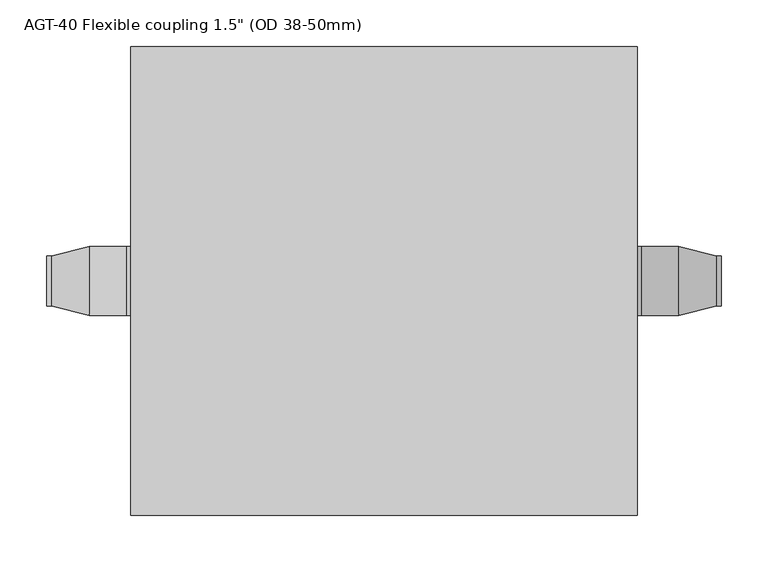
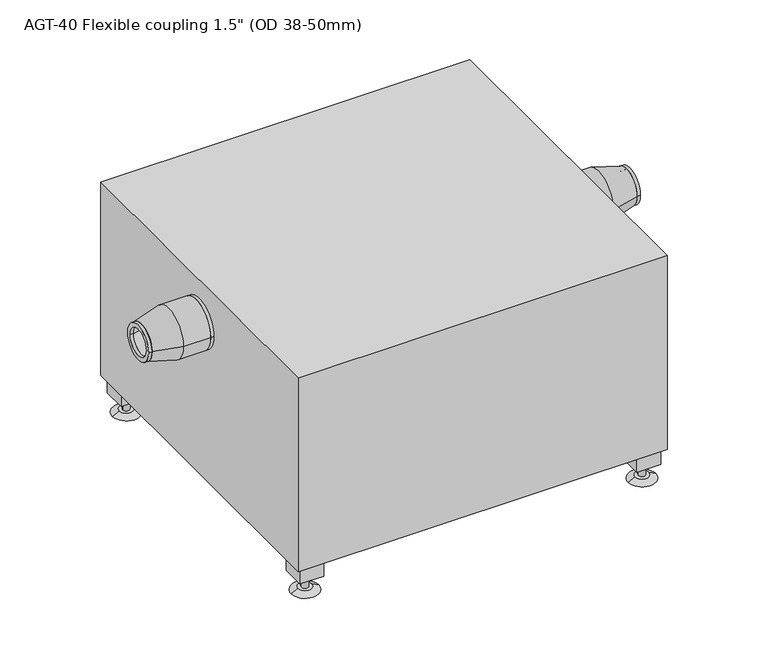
"""IFC4 building model written with IfcOpenShell, lengths in millimetres: unitary equipment geometry."""

from ifc_helpers import new_model, si_unit, point, frame, frame_2d, origin, place, context, project, spatial, polyline, circle_curve, trimmed, segment, composite_curve, outline, extrude, faceted_brep, source, transform, mapped, element, save
from ifc_brep_helpers import plane_surface, cylinder_surface, revolved_surface, advanced_brep


def unitary_equipment_d624d7d0(model_context):
    return source(origin(), model_context, "Body", "SolidModel", [
        advanced_brep(
        [(354.694081, 26.65, 276.5), (354.694081, -26.65, 276.5), (354.694081, -20.0, 276.5), (354.694081, 20.0, 276.5), (314.694081, 36.8, 276.5), (314.694081, -36.8, 276.5), (275.0, 36.8, 276.5), (275.0, -36.8, 276.5), (275.0, 30.15, 276.5), (275.0, -30.15, 276.5), (314.694081, 30.15, 276.5), (314.694081, -30.15, 276.5)],
        [
            (0, 1, circle_curve(frame((354.694081, 0.0, 276.5), z_axis=(1.0, 0.0, 0.0), x_axis=(0.0, 1.0, 0.0)), 26.65)),
            (1, 0, circle_curve(frame((354.694081, 0.0, 276.5), z_axis=(1.0, 0.0, 0.0), x_axis=(0.0, -1.0, 0.0)), 26.65)),
            (2, 3, circle_curve(frame((354.694081, 0.0, 276.5), z_axis=(-1.0, 0.0, 0.0), x_axis=(0.0, 1.0, 0.0)), 20.0)),
            (3, 2, circle_curve(frame((354.694081, 0.0, 276.5), z_axis=(-1.0, 0.0, 0.0), x_axis=(0.0, -1.0, 0.0)), 20.0)),
            (0, 4),
            (4, 5, circle_curve(frame((314.694081, 0.0, 276.5), z_axis=(1.0, 0.0, 0.0), x_axis=(0.0, 1.0, 0.0)), 36.8)),
            (5, 1),
            (5, 4, circle_curve(frame((314.694081, 0.0, 276.5), z_axis=(1.0, 0.0, 0.0), x_axis=(0.0, -1.0, 0.0)), 36.8)),
            (6, 7, circle_curve(frame((275.0, 0.0, 276.5), z_axis=(-1.0, 0.0, 0.0), x_axis=(0.0, -1.0, 0.0)), 36.8)),
            (7, 6, circle_curve(frame((275.0, 0.0, 276.5), z_axis=(-1.0, 0.0, 0.0), x_axis=(0.0, -1.0, 0.0)), 36.8)),
            (8, 9, circle_curve(frame((275.0, 0.0, 276.5), z_axis=(1.0, 0.0, 0.0), x_axis=(0.0, -1.0, 0.0)), 30.15)),
            (9, 8, circle_curve(frame((275.0, 0.0, 276.5), z_axis=(1.0, 0.0, 0.0), x_axis=(0.0, -1.0, 0.0)), 30.15)),
            (7, 5),
            (4, 6),
            (8, 10),
            (10, 11, circle_curve(frame((314.694081, 0.0, 276.5), z_axis=(1.0, 0.0, 0.0), x_axis=(0.0, -1.0, 0.0)), 30.15)),
            (11, 9),
            (11, 10, circle_curve(frame((314.694081, 0.0, 276.5), z_axis=(1.0, 0.0, 0.0), x_axis=(0.0, -1.0, 0.0)), 30.15)),
            (10, 3),
            (2, 11),
        ],
        [
            plane_surface(frame((354.694081, 0.0, 276.5), z_axis=(1.0, 0.0, 0.0), x_axis=(0.0, 0.0, -1.0))),
            revolved_surface(polyline([(354.694081, 26.64999999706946, 276.5), (314.694081, 36.8, 276.5)]), (459.7187115, 0.0, 276.5), (-1.0, 0.0, 0.0)),
            revolved_surface(polyline([(354.694081, -26.64999999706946, 276.5), (314.694081, -36.8, 276.5)]), (459.7187115, 0.0, 276.5), (-1.0, 0.0, 0.0)),
            plane_surface(frame((275.0, -36.8, 276.5), z_axis=(-1.0, 0.0, 0.0), x_axis=(0.0, 0.0, 1.0))),
            cylinder_surface(frame((314.694081, 0.0, 276.5), z_axis=(-1.0, 0.0, 0.0), x_axis=(0.0, -1.0, 0.0)), 36.8),
            revolved_surface(polyline([(314.694081, -30.15, 276.5), (275.0, -30.15, 276.5)]), (314.694081, 0.0, 276.5), (1.0, 0.0, 0.0)),
            revolved_surface(polyline([(314.694081, 30.15, 276.5), (354.694081, 20.000000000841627, 276.5)]), (433.511815, 0.0, 276.5), (-1.0, 0.0, 0.0)),
        ],
        [
            (0, [[1, 2], [3, 4]]),
            (1, [[-1, 5, 6, 7]]),
            (2, [[-2, -7, 8, -5]]),
            (3, [[9, 10], [11, 12]]),
            (4, [[-10, 13, -6, 14]]),
            (4, [[-9, -14, -8, -13]]),
            (5, [[-11, 15, 16, 17]]),
            (5, [[-12, -17, 18, -15]]),
            (6, [[19, -3, 20, -16]]),
            (6, [[-19, -18, -20, -4]]),
        ],
    ),
        extrude(outline(composite_curve([segment(trimmed(circle_curve(frame_2d((0.0, 276.5)), 36.8), [point((36.8, 276.5))], [point((-36.8, 276.5))], False, "CARTESIAN"), True, "CONTINUOUS"), segment(trimmed(circle_curve(frame_2d((0.0, 276.5)), 36.8), [point((-36.8, 276.5))], [point((36.8, 276.5))], False, "CARTESIAN"), True, "CONTINUOUS")], self_intersect=False), holes=[composite_curve([segment(trimmed(circle_curve(frame_2d((0.0, 276.5)), 30.15), [point((30.15, 276.5))], [point((-30.15, 276.5))], True, "CARTESIAN"), True, "CONTINUOUS"), segment(trimmed(circle_curve(frame_2d((0.0, 276.5)), 30.15), [point((-30.15, 276.5))], [point((30.15, 276.5))], True, "CARTESIAN"), True, "CONTINUOUS")], self_intersect=False)]), frame((270.0, 0.0, 0.0), z_axis=(1.0, 0.0, 0.0), x_axis=(0.0, 1.0, 0.0)), (0.0, 0.0, 1.0), 5.0),
        extrude(outline(composite_curve([segment(trimmed(circle_curve(frame_2d((0.0, 276.5)), 26.65), [point((26.65, 276.5))], [point((-26.65, 276.5))], False, "CARTESIAN"), True, "CONTINUOUS"), segment(trimmed(circle_curve(frame_2d((0.0, 276.5)), 26.65), [point((-26.65, 276.5))], [point((26.65, 276.5))], False, "CARTESIAN"), True, "CONTINUOUS")], self_intersect=False), holes=[composite_curve([segment(trimmed(circle_curve(frame_2d((0.0, 276.5)), 20.0), [point((20.0, 276.5))], [point((-20.0, 276.5))], True, "CARTESIAN"), True, "CONTINUOUS"), segment(trimmed(circle_curve(frame_2d((0.0, 276.5)), 20.0), [point((-20.0, 276.5))], [point((20.0, 276.5))], True, "CARTESIAN"), True, "CONTINUOUS")], self_intersect=False)]), frame((354.694081, 0.0, 0.0), z_axis=(1.0, 0.0, 0.0), x_axis=(0.0, 1.0, 0.0)), (0.0, 0.0, 1.0), 5.0),
        advanced_brep(
        [(-354.694081, -26.65, 284.5), (-354.694081, 26.65, 284.5), (-354.694081, 20.0, 284.5), (-354.694081, -20.0, 284.5), (-314.694081, -36.8, 284.5), (-314.694081, 36.8, 284.5), (-275.0, -36.8, 284.5), (-275.0, 36.8, 284.5), (-275.0, -30.15, 284.5), (-275.0, 30.15, 284.5), (-314.694081, -30.15, 284.5), (-314.694081, 30.15, 284.5)],
        [
            (0, 1, circle_curve(frame((-354.694081, 0.0, 284.5), z_axis=(-1.0, 0.0, 0.0), x_axis=(0.0, -1.0, 0.0)), 26.65)),
            (1, 0, circle_curve(frame((-354.694081, 0.0, 284.5), z_axis=(-1.0, 0.0, 0.0), x_axis=(0.0, 1.0, 0.0)), 26.65)),
            (2, 3, circle_curve(frame((-354.694081, 0.0, 284.5), z_axis=(1.0, 0.0, 0.0), x_axis=(0.0, -1.0, 0.0)), 20.0)),
            (3, 2, circle_curve(frame((-354.694081, 0.0, 284.5), z_axis=(1.0, 0.0, 0.0), x_axis=(0.0, 1.0, 0.0)), 20.0)),
            (0, 4),
            (4, 5, circle_curve(frame((-314.694081, 0.0, 284.5), z_axis=(-1.0, 0.0, 0.0), x_axis=(0.0, -1.0, 0.0)), 36.8)),
            (5, 1),
            (5, 4, circle_curve(frame((-314.694081, 0.0, 284.5), z_axis=(-1.0, 0.0, 0.0), x_axis=(0.0, 1.0, 0.0)), 36.8)),
            (6, 7, circle_curve(frame((-275.0, 0.0, 284.5), z_axis=(1.0, 0.0, 0.0), x_axis=(0.0, 1.0, 0.0)), 36.8)),
            (7, 6, circle_curve(frame((-275.0, 0.0, 284.5), z_axis=(1.0, 0.0, 0.0), x_axis=(0.0, 1.0, 0.0)), 36.8)),
            (8, 9, circle_curve(frame((-275.0, 0.0, 284.5), z_axis=(-1.0, 0.0, 0.0), x_axis=(0.0, 1.0, 0.0)), 30.15)),
            (9, 8, circle_curve(frame((-275.0, 0.0, 284.5), z_axis=(-1.0, 0.0, 0.0), x_axis=(0.0, 1.0, 0.0)), 30.15)),
            (7, 5),
            (4, 6),
            (8, 10),
            (10, 11, circle_curve(frame((-314.694081, 0.0, 284.5), z_axis=(-1.0, 0.0, 0.0), x_axis=(0.0, 1.0, 0.0)), 30.15)),
            (11, 9),
            (11, 10, circle_curve(frame((-314.694081, 0.0, 284.5), z_axis=(-1.0, 0.0, 0.0), x_axis=(0.0, 1.0, 0.0)), 30.15)),
            (10, 3),
            (2, 11),
        ],
        [
            plane_surface(frame((-354.694081, 0.0, 284.5), z_axis=(-1.0, 0.0, 0.0), x_axis=(0.0, 0.0, -1.0))),
            revolved_surface(polyline([(-354.694081, -26.64999999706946, 284.5), (-314.694081, -36.8, 284.5)]), (-459.7187115, 0.0, 284.5), (1.0, 0.0, 0.0)),
            revolved_surface(polyline([(-354.694081, 26.64999999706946, 284.5), (-314.694081, 36.8, 284.5)]), (-459.7187115, 0.0, 284.5), (1.0, 0.0, 0.0)),
            plane_surface(frame((-275.0, 36.8, 284.5), z_axis=(1.0, 0.0, 0.0), x_axis=(0.0, 0.0, 1.0))),
            cylinder_surface(frame((-314.694081, 0.0, 284.5), z_axis=(1.0, 0.0, 0.0), x_axis=(0.0, 1.0, 0.0)), 36.8),
            revolved_surface(polyline([(-314.694081, 30.15, 284.5), (-275.0, 30.15, 284.5)]), (-314.694081, 0.0, 284.5), (-1.0, 0.0, 0.0)),
            revolved_surface(polyline([(-314.694081, -30.15, 284.5), (-354.694081, -20.000000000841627, 284.5)]), (-433.511815, 0.0, 284.5), (1.0, 0.0, 0.0)),
        ],
        [
            (0, [[1, 2], [3, 4]]),
            (1, [[-1, 5, 6, 7]]),
            (2, [[-2, -7, 8, -5]]),
            (3, [[9, 10], [11, 12]]),
            (4, [[-10, 13, -6, 14]]),
            (4, [[-9, -14, -8, -13]]),
            (5, [[-11, 15, 16, 17]]),
            (5, [[-12, -17, 18, -15]]),
            (6, [[19, -3, 20, -16]]),
            (6, [[-19, -18, -20, -4]]),
        ],
    ),
        extrude(outline(composite_curve([segment(trimmed(circle_curve(frame_2d((0.0, 284.5)), 36.8), [point((-36.8, 284.5))], [point((36.8, 284.5))], False, "CARTESIAN"), True, "CONTINUOUS"), segment(trimmed(circle_curve(frame_2d((0.0, 284.5)), 36.8), [point((36.8, 284.5))], [point((-36.8, 284.5))], False, "CARTESIAN"), True, "CONTINUOUS")], self_intersect=False), holes=[composite_curve([segment(trimmed(circle_curve(frame_2d((0.0, 284.5)), 30.15), [point((-30.15, 284.5))], [point((30.15, 284.5))], True, "CARTESIAN"), True, "CONTINUOUS"), segment(trimmed(circle_curve(frame_2d((0.0, 284.5)), 30.15), [point((30.15, 284.5))], [point((-30.15, 284.5))], True, "CARTESIAN"), True, "CONTINUOUS")], self_intersect=False)]), frame((-275.0, 0.0, 0.0), z_axis=(1.0, 0.0, 0.0), x_axis=(0.0, 1.0, 0.0)), (0.0, 0.0, 1.0), 5.0),
        extrude(outline(composite_curve([segment(trimmed(circle_curve(frame_2d((0.0, 284.5)), 26.65), [point((-26.65, 284.5))], [point((26.65, 284.5))], False, "CARTESIAN"), True, "CONTINUOUS"), segment(trimmed(circle_curve(frame_2d((0.0, 284.5)), 26.65), [point((26.65, 284.5))], [point((-26.65, 284.5))], False, "CARTESIAN"), True, "CONTINUOUS")], self_intersect=False), holes=[composite_curve([segment(trimmed(circle_curve(frame_2d((0.0, 284.5)), 20.0), [point((-20.0, 284.5))], [point((20.0, 284.5))], True, "CARTESIAN"), True, "CONTINUOUS"), segment(trimmed(circle_curve(frame_2d((0.0, 284.5)), 20.0), [point((20.0, 284.5))], [point((-20.0, 284.5))], True, "CARTESIAN"), True, "CONTINUOUS")], self_intersect=False)]), frame((-359.694081, 0.0, 0.0), z_axis=(1.0, 0.0, 0.0), x_axis=(0.0, 1.0, 0.0)), (0.0, 0.0, 1.0), 5.0),
        extrude(outline(composite_curve([segment(trimmed(circle_curve(frame_2d((0.0, 52.5)), 20.0), [point((-20.0, 52.5))], [point((20.0, 52.5))], False, "CARTESIAN"), True, "CONTINUOUS"), segment(trimmed(circle_curve(frame_2d((0.0, 52.5)), 20.0), [point((20.0, 52.5))], [point((-20.0, 52.5))], False, "CARTESIAN"), True, "CONTINUOUS")], self_intersect=False)), frame((270.0, 0.0, 0.0), z_axis=(1.0, 0.0, 0.0), x_axis=(0.0, 1.0, 0.0)), (0.0, 0.0, 1.0), 80.0),
        extrude(outline(composite_curve([segment(trimmed(circle_curve(frame_2d((0.0, 284.5)), 30.15), [point((-30.15, 284.5))], [point((30.15, 284.5))], False, "CARTESIAN"), True, "CONTINUOUS"), segment(trimmed(circle_curve(frame_2d((0.0, 284.5)), 30.15), [point((30.15, 284.5))], [point((-30.15, 284.5))], False, "CARTESIAN"), True, "CONTINUOUS")], self_intersect=False)), frame((-310.0, 0.0, 0.0), z_axis=(1.0, 0.0, 0.0), x_axis=(0.0, 1.0, 0.0)), (0.0, 0.0, 1.0), 40.0),
        extrude(outline(composite_curve([segment(trimmed(circle_curve(frame_2d((0.0, 276.5)), 30.15), [point((-30.15, 276.5))], [point((30.15, 276.5))], False, "CARTESIAN"), True, "CONTINUOUS"), segment(trimmed(circle_curve(frame_2d((0.0, 276.5)), 30.15), [point((30.15, 276.5))], [point((-30.15, 276.5))], False, "CARTESIAN"), True, "CONTINUOUS")], self_intersect=False)), frame((270.0, 0.0, 0.0), z_axis=(1.0, 0.0, 0.0), x_axis=(0.0, 1.0, 0.0)), (0.0, 0.0, 1.0), 40.0),
        advanced_brep(
        [(256.5, 226.5, 5.0), (236.5, 226.5, 5.0), (266.5, 226.5, 0.0), (226.5, 226.5, 0.0)],
        [
            (0, 1, circle_curve(frame((246.5, 226.5, 5.0), z_axis=(0.0, 0.0, 1.0), x_axis=(1.0, 0.0, 0.0)), 10.0)),
            (1, 0, circle_curve(frame((246.5, 226.5, 5.0), z_axis=(0.0, 0.0, 1.0), x_axis=(-1.0, 0.0, 0.0)), 10.0)),
            (2, 3, circle_curve(frame((246.5, 226.5, 0.0), z_axis=(0.0, 0.0, -1.0), x_axis=(-1.0, 0.0, 0.0)), 20.0)),
            (3, 2, circle_curve(frame((246.5, 226.5, 0.0), z_axis=(0.0, 0.0, -1.0), x_axis=(1.0, 0.0, 0.0)), 20.0)),
            (3, 1),
            (0, 2),
        ],
        [
            plane_surface(frame((246.5, 226.5, 5.0), z_axis=(0.0, 0.0, 1.0), x_axis=(0.0, 1.0, 0.0))),
            plane_surface(frame((246.5, 226.5, 0.0), z_axis=(0.0, 0.0, -1.0), x_axis=(0.0, 1.0, 0.0))),
            revolved_surface(polyline([(256.5, 226.5, 5.0), (266.5, 226.5, 0.0)]), (246.5, 226.5, 10.0), (0.0, 0.0, -1.0)),
            revolved_surface(polyline([(236.5, 226.5, 5.0), (226.5, 226.5, 0.0)]), (246.5, 226.5, 10.0), (0.0, 0.0, -1.0)),
        ],
        [
            (0, [[1, 2]]),
            (1, [[3, 4]]),
            (2, [[-4, 5, -1, 6]]),
            (3, [[-3, -6, -2, -5]]),
        ],
    ),
        extrude(outline(composite_curve([segment(trimmed(circle_curve(frame_2d((246.5, 226.5)), 5.0), [point((251.5, 226.5))], [point((241.5, 226.5))], False, "CARTESIAN"), True, "CONTINUOUS"), segment(trimmed(circle_curve(frame_2d((246.5, 226.5)), 5.0), [point((241.5, 226.5))], [point((251.5, 226.5))], False, "CARTESIAN"), True, "CONTINUOUS")], self_intersect=False)), frame((0.0, 0.0, 5.0), z_axis=(0.0, 0.0, 1.0), x_axis=(1.0, 0.0, 0.0)), (0.0, 0.0, 1.0), 20.0),
        extrude(outline(composite_curve([segment(trimmed(circle_curve(frame_2d((-246.5, 226.5)), 5.0), [point((-251.5, 226.5))], [point((-241.5, 226.5))], False, "CARTESIAN"), True, "CONTINUOUS"), segment(trimmed(circle_curve(frame_2d((-246.5, 226.5)), 5.0), [point((-241.5, 226.5))], [point((-251.5, 226.5))], False, "CARTESIAN"), True, "CONTINUOUS")], self_intersect=False)), frame((0.0, 0.0, 5.0), z_axis=(0.0, 0.0, 1.0), x_axis=(1.0, 0.0, 0.0)), (0.0, 0.0, 1.0), 20.0),
        advanced_brep(
        [(-256.5, 226.5, 5.0), (-236.5, 226.5, 5.0), (-266.5, 226.5, 0.0), (-226.5, 226.5, 0.0)],
        [
            (0, 1, circle_curve(frame((-246.5, 226.5, 5.0), z_axis=(0.0, 0.0, 1.0), x_axis=(-1.0, 0.0, 0.0)), 10.0)),
            (1, 0, circle_curve(frame((-246.5, 226.5, 5.0), z_axis=(0.0, 0.0, 1.0), x_axis=(1.0, 0.0, 0.0)), 10.0)),
            (2, 3, circle_curve(frame((-246.5, 226.5, 0.0), z_axis=(0.0, 0.0, -1.0), x_axis=(1.0, 0.0, 0.0)), 20.0)),
            (3, 2, circle_curve(frame((-246.5, 226.5, 0.0), z_axis=(0.0, 0.0, -1.0), x_axis=(-1.0, 0.0, 0.0)), 20.0)),
            (2, 0),
            (1, 3),
        ],
        [
            plane_surface(frame((-246.5, 226.5, 5.0), z_axis=(0.0, 0.0, 1.0), x_axis=(0.0, -1.0, 0.0))),
            plane_surface(frame((-246.5, 226.5, 0.0), z_axis=(0.0, 0.0, -1.0), x_axis=(0.0, -1.0, 0.0))),
            revolved_surface(polyline([(-236.5, 226.5, 5.0), (-226.5, 226.5, 0.0)]), (-246.5, 226.5, 10.0), (0.0, 0.0, -1.0)),
            revolved_surface(polyline([(-256.5, 226.5, 5.0), (-266.5, 226.5, 0.0)]), (-246.5, 226.5, 10.0), (0.0, 0.0, -1.0)),
        ],
        [
            (0, [[1, 2]]),
            (1, [[3, 4]]),
            (2, [[-3, 5, -2, 6]]),
            (3, [[-4, -6, -1, -5]]),
        ],
    ),
        advanced_brep(
        [(256.5, -226.5, 5.0), (236.5, -226.5, 5.0), (266.5, -226.5, 0.0), (226.5, -226.5, 0.0)],
        [
            (0, 1, circle_curve(frame((246.5, -226.5, 5.0), z_axis=(0.0, 0.0, 1.0), x_axis=(1.0, 0.0, 0.0)), 10.0)),
            (1, 0, circle_curve(frame((246.5, -226.5, 5.0), z_axis=(0.0, 0.0, 1.0), x_axis=(-1.0, 0.0, 0.0)), 10.0)),
            (2, 3, circle_curve(frame((246.5, -226.5, 0.0), z_axis=(0.0, 0.0, -1.0), x_axis=(-1.0, 0.0, 0.0)), 20.0)),
            (3, 2, circle_curve(frame((246.5, -226.5, 0.0), z_axis=(0.0, 0.0, -1.0), x_axis=(1.0, 0.0, 0.0)), 20.0)),
            (2, 0),
            (1, 3),
        ],
        [
            plane_surface(frame((246.5, -226.5, 5.0), z_axis=(0.0, 0.0, 1.0), x_axis=(0.0, 1.0, 0.0))),
            plane_surface(frame((246.5, -226.5, 0.0), z_axis=(0.0, 0.0, -1.0), x_axis=(0.0, 1.0, 0.0))),
            revolved_surface(polyline([(236.5, -226.5, 5.0), (226.5, -226.5, 0.0)]), (246.5, -226.5, 10.0), (0.0, 0.0, -1.0)),
            revolved_surface(polyline([(256.5, -226.5, 5.0), (266.5, -226.5, 0.0)]), (246.5, -226.5, 10.0), (0.0, 0.0, -1.0)),
        ],
        [
            (0, [[1, 2]]),
            (1, [[3, 4]]),
            (2, [[-3, 5, -2, 6]]),
            (3, [[-4, -6, -1, -5]]),
        ],
    ),
        extrude(outline(composite_curve([segment(trimmed(circle_curve(frame_2d((246.5, -226.5)), 5.0), [point((251.5, -226.5))], [point((241.5, -226.5))], False, "CARTESIAN"), True, "CONTINUOUS"), segment(trimmed(circle_curve(frame_2d((246.5, -226.5)), 5.0), [point((241.5, -226.5))], [point((251.5, -226.5))], False, "CARTESIAN"), True, "CONTINUOUS")], self_intersect=False)), frame((0.0, 0.0, 5.0), z_axis=(0.0, 0.0, 1.0), x_axis=(1.0, 0.0, 0.0)), (0.0, 0.0, 1.0), 20.0),
        extrude(outline(composite_curve([segment(trimmed(circle_curve(frame_2d((-246.5, -226.5)), 5.0), [point((-251.5, -226.5))], [point((-241.5, -226.5))], False, "CARTESIAN"), True, "CONTINUOUS"), segment(trimmed(circle_curve(frame_2d((-246.5, -226.5)), 5.0), [point((-241.5, -226.5))], [point((-251.5, -226.5))], False, "CARTESIAN"), True, "CONTINUOUS")], self_intersect=False)), frame((0.0, 0.0, 5.0), z_axis=(0.0, 0.0, 1.0), x_axis=(1.0, 0.0, 0.0)), (0.0, 0.0, 1.0), 20.0),
        advanced_brep(
        [(-256.5, -226.5, 5.0), (-236.5, -226.5, 5.0), (-266.5, -226.5, 0.0), (-226.5, -226.5, 0.0)],
        [
            (0, 1, circle_curve(frame((-246.5, -226.5, 5.0), z_axis=(0.0, 0.0, 1.0), x_axis=(-1.0, 0.0, 0.0)), 10.0)),
            (1, 0, circle_curve(frame((-246.5, -226.5, 5.0), z_axis=(0.0, 0.0, 1.0), x_axis=(1.0, 0.0, 0.0)), 10.0)),
            (2, 3, circle_curve(frame((-246.5, -226.5, 0.0), z_axis=(0.0, 0.0, -1.0), x_axis=(1.0, 0.0, 0.0)), 20.0)),
            (3, 2, circle_curve(frame((-246.5, -226.5, 0.0), z_axis=(0.0, 0.0, -1.0), x_axis=(-1.0, 0.0, 0.0)), 20.0)),
            (3, 1),
            (0, 2),
        ],
        [
            plane_surface(frame((-246.5, -226.5, 5.0), z_axis=(0.0, 0.0, 1.0), x_axis=(0.0, -1.0, 0.0))),
            plane_surface(frame((-246.5, -226.5, 0.0), z_axis=(0.0, 0.0, -1.0), x_axis=(0.0, -1.0, 0.0))),
            revolved_surface(polyline([(-256.5, -226.5, 5.0), (-266.5, -226.5, 0.0)]), (-246.5, -226.5, 10.0), (0.0, 0.0, -1.0)),
            revolved_surface(polyline([(-236.5, -226.5, 5.0), (-226.5, -226.5, 0.0)]), (-246.5, -226.5, 10.0), (0.0, 0.0, -1.0)),
        ],
        [
            (0, [[1, 2]]),
            (1, [[3, 4]]),
            (2, [[-4, 5, -1, 6]]),
            (3, [[-3, -6, -2, -5]]),
        ],
    ),
        extrude(outline(polyline([(-229.0, 244.0), (-229.0, 209.0), (-264.0, 209.0), (-264.0, 244.0), (-229.0, 244.0)])), frame((0.0, 0.0, 25.0), z_axis=(0.0, 0.0, 1.0), x_axis=(1.0, 0.0, 0.0)), (0.0, 0.0, 1.0), 25.0),
        extrude(outline(polyline([(229.0, 244.0), (264.0, 244.0), (264.0, 209.0), (229.0, 209.0), (229.0, 244.0)])), frame((0.0, 0.0, 25.0), z_axis=(0.0, 0.0, 1.0), x_axis=(1.0, 0.0, 0.0)), (0.0, 0.0, 1.0), 25.0),
        extrude(outline(polyline([(-229.0, -244.0), (-264.0, -244.0), (-264.0, -209.0), (-229.0, -209.0), (-229.0, -244.0)])), frame((0.0, 0.0, 25.0), z_axis=(0.0, 0.0, 1.0), x_axis=(1.0, 0.0, 0.0)), (0.0, 0.0, 1.0), 25.0),
        extrude(outline(polyline([(229.0, -244.0), (229.0, -209.0), (264.0, -209.0), (264.0, -244.0), (229.0, -244.0)])), frame((0.0, 0.0, 25.0), z_axis=(0.0, 0.0, 1.0), x_axis=(1.0, 0.0, 0.0)), (0.0, 0.0, 1.0), 25.0),
        faceted_brep([(-270.0, -250.0, 350.0), (-270.0, 250.0, 350.0), (-270.0, 250.0, 50.0), (-270.0, -250.0, 50.0), (270.0, -250.0, 350.0), (270.0, -250.0, 50.0), (270.0, 0.0, 25.0), (270.0, 250.0, 50.0), (270.0, 250.0, 350.0)], [[[0, 1, 2, 3]], [[4, 5, 6, 7, 8]], [[5, 4, 0, 3]], [[8, 7, 2, 1]], [[4, 8, 1, 0]], [[6, 5, 3]], [[7, 6, 2]], [[3, 2, 6]]]),
    ])


if __name__ == "__main__":
    model = new_model("IFC4")
    model_context = context("Model", 3, world=origin())
    ifc_project = project(units=[si_unit("LENGTHUNIT", "METRE", prefix="MILLI")], contexts=[model_context])
    site = spatial("IfcSite", under=ifc_project)
    building = spatial("IfcBuilding", under=site)
    placement = place(None, origin())
    unitary_equipment_shape = unitary_equipment_d624d7d0(model_context)
    element("IfcUnitaryEquipment", 1, ObjectType="ME_ST_UN_AGT grease trap_ACO : AGT-40 Flexible coupling 1.5\" (OD 38-50mm)", at=placement, inside=building, context=model_context, shape_type="MappedRepresentation", body=[
        mapped(unitary_equipment_shape, transform((0.0, 0.0, 0.0), x_axis=(1.0, 0.0, 0.0), y_axis=(0.0, 1.0, 0.0), z_axis=(0.0, 0.0, 1.0))),
    ])
    save(model, "model.ifc")
